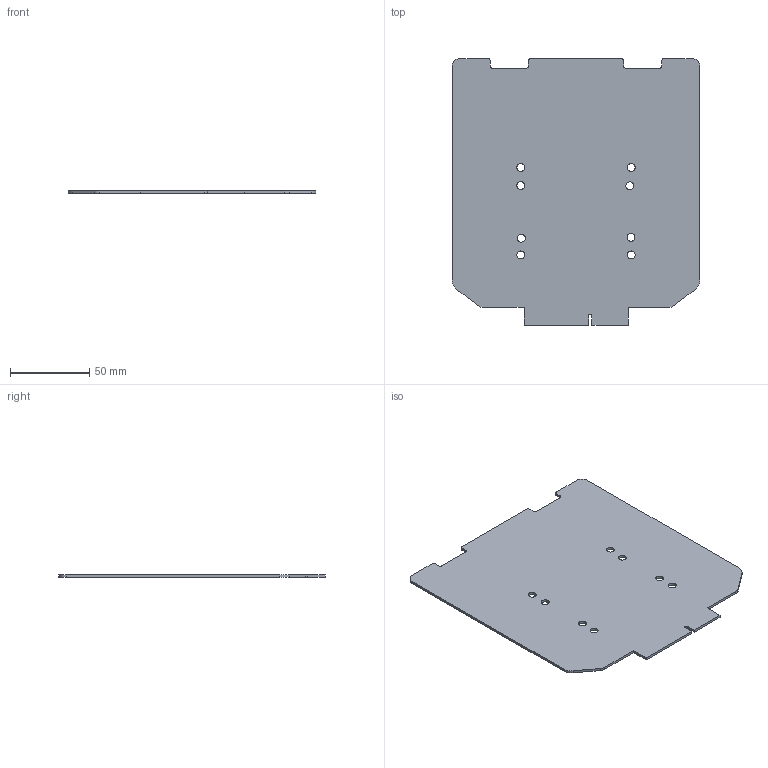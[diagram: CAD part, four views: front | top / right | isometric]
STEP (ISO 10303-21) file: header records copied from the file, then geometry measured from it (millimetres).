
FILE_DESCRIPTION(('Open CASCADE Model'),'2;1');
FILE_NAME('Open CASCADE Shape Model','2026-10-01T15:23:50',('Author'),( 'Open CASCADE'),'Open CASCADE STEP processor 7.9','Open CASCADE 7.9' ,'Unknown');
FILE_SCHEMA(('AUTOMOTIVE_DESIGN { 1 0 10303 214 1 1 1 1 }'));
Length unit declared in the file: millimetre
Products named in the file (1): Open CASCADE STEP translator 7.9 8
Bounding box: 156 x 167.78 x 1.6 mm (x, y, z)
Volume: 39100.2 mm3; surface area: 50126.8 mm2
Topology: 1 solids, 1 shells, 46 faces, 132 edges, 88 vertices
Faces by surface type: cylinder 23, plane 23
Full cylindrical faces by diameter (mm): 5 x8
Entity records: 3328 total; most frequent: CARTESIAN_POINT 627, DIRECTION 520, LINE 304, VECTOR 304, ORIENTED_EDGE 264, PCURVE 264, DEFINITIONAL_REPRESENTATION 264, EDGE_CURVE 132
